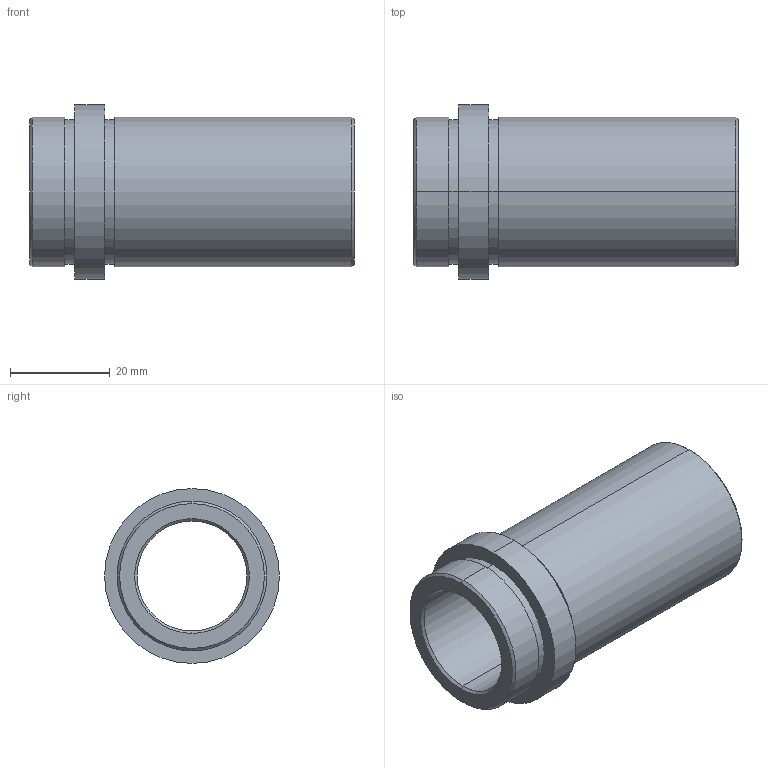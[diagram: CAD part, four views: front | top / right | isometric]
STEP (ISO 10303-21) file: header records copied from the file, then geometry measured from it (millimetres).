
FILE_DESCRIPTION (( 'STEP AP214' ), '1' );
FILE_NAME ('D21_22x56.step', '2011-12-29T18:10:23', ( 'Dell' ), ( '' ), 'SwSTEP 2.0', 'SolidWorks 2010', '' );
FILE_SCHEMA (( 'AUTOMOTIVE_DESIGN' ));
Length unit declared in the file: millimetre
Products named in the file (1): D21_22x56
Bounding box: 65 x 35 x 35 mm (x, y, z)
Volume: 22542.5 mm3; surface area: 11953.9 mm2
Topology: 1 solids, 1 shells, 26 faces, 52 edges, 32 vertices
Faces by surface type: cylinder 12, cone 8, plane 6
Entity records: 722 total; most frequent: DIRECTION 138, CARTESIAN_POINT 111, ORIENTED_EDGE 104, AXIS2_PLACEMENT_3D 59, EDGE_CURVE 52, VERTEX_POINT 32, EDGE_LOOP 32, CIRCLE 32
